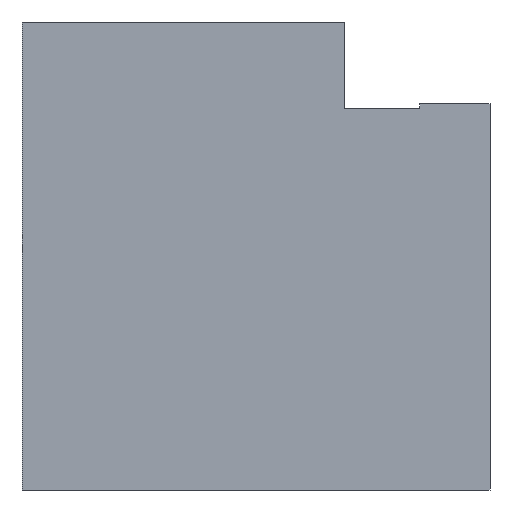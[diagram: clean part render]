
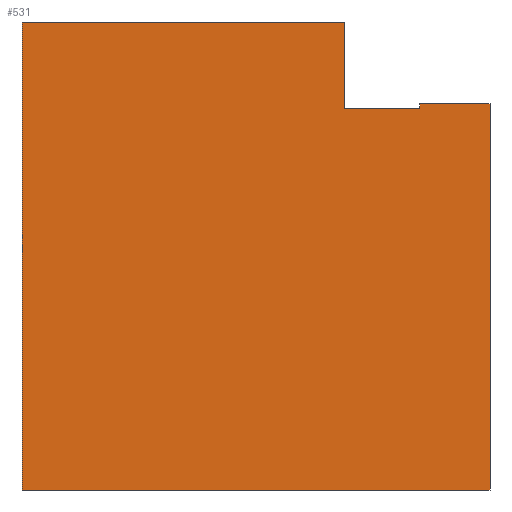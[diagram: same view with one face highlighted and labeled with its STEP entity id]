
A CAD part, left-side view. The second image highlights one B-rep face of the part: STEP entity #531.
In plain terms, the highlighted planar face has unit normal (-1, 0, 0).
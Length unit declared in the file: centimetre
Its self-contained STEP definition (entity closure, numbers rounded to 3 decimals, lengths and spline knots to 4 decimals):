
#12 = DIRECTION ( 'NONE',  ( 0., 0., -1. ) ) ;
#70 = VECTOR ( 'NONE', #1054, 100. ) ;
#71 = ORIENTED_EDGE ( 'NONE', *, *, #1024, .F. ) ;
#99 = VERTEX_POINT ( 'NONE', #304 ) ;
#108 = CARTESIAN_POINT ( 'NONE',  ( 0., 310.5653, 1000. ) ) ;
#134 = ORIENTED_EDGE ( 'NONE', *, *, #174, .T. ) ;
#155 = CARTESIAN_POINT ( 'NONE',  ( 0., 1000., 1000. ) ) ;
#156 = VERTEX_POINT ( 'NONE', #210 ) ;
#174 = EDGE_CURVE ( 'NONE', #99, #950, #307, .T. ) ;
#177 = CARTESIAN_POINT ( 'NONE',  ( 0., 149.7476, 815.6626 ) ) ;
#179 = CARTESIAN_POINT ( 'NONE',  ( 0., 1000., 1000. ) ) ;
#188 = VERTEX_POINT ( 'NONE', #661 ) ;
#203 = LINE ( 'NONE', #477, #600 ) ;
#210 = CARTESIAN_POINT ( 'NONE',  ( 0., 149.7476, 825.0649 ) ) ;
#223 = DIRECTION ( 'NONE',  ( 0., 0., 1. ) ) ;
#224 = VECTOR ( 'NONE', #377, 100. ) ;
#240 = ORIENTED_EDGE ( 'NONE', *, *, #740, .T. ) ;
#249 = LINE ( 'NONE', #344, #432 ) ;
#257 = ORIENTED_EDGE ( 'NONE', *, *, #337, .T. ) ;
#304 = CARTESIAN_POINT ( 'NONE',  ( 0., 310.5653, 815.6626 ) ) ;
#307 = LINE ( 'NONE', #819, #595 ) ;
#318 = ORIENTED_EDGE ( 'NONE', *, *, #1102, .F. ) ;
#337 = EDGE_CURVE ( 'NONE', #156, #954, #203, .T. ) ;
#344 = CARTESIAN_POINT ( 'NONE',  ( 0., 0., 1000. ) ) ;
#358 = VECTOR ( 'NONE', #607, 100. ) ;
#377 = DIRECTION ( 'NONE',  ( 0., 1., 0. ) ) ;
#387 = EDGE_CURVE ( 'NONE', #660, #406, #1132, .T. ) ;
#391 = VECTOR ( 'NONE', #512, 100. ) ;
#406 = VERTEX_POINT ( 'NONE', #687 ) ;
#432 = VECTOR ( 'NONE', #529, 100. ) ;
#440 = LINE ( 'NONE', #177, #70 ) ;
#447 = CARTESIAN_POINT ( 'NONE',  ( 0., 0., 825.0649 ) ) ;
#457 = CARTESIAN_POINT ( 'NONE',  ( 0., 1000., 0. ) ) ;
#477 = CARTESIAN_POINT ( 'NONE',  ( 0., 149.7476, 815.6626 ) ) ;
#512 = DIRECTION ( 'NONE',  ( 0., -1., 0. ) ) ;
#522 = EDGE_CURVE ( 'NONE', #954, #99, #440, .T. ) ;
#529 = DIRECTION ( 'NONE',  ( 0., 0., -1. ) ) ;
#531 = ADVANCED_FACE ( 'NONE', ( #1047 ), #709, .F. ) ;
#534 = DIRECTION ( 'NONE',  ( 1., 0., 0. ) ) ;
#580 = LINE ( 'NONE', #155, #391 ) ;
#595 = VECTOR ( 'NONE', #223, 100. ) ;
#600 = VECTOR ( 'NONE', #1101, 100. ) ;
#605 = CARTESIAN_POINT ( 'NONE',  ( 0., 1000., 0. ) ) ;
#607 = DIRECTION ( 'NONE',  ( 0., -1., 0. ) ) ;
#616 = LINE ( 'NONE', #179, #1008 ) ;
#652 = ORIENTED_EDGE ( 'NONE', *, *, #654, .T. ) ;
#654 = EDGE_CURVE ( 'NONE', #188, #156, #881, .T. ) ;
#660 = VERTEX_POINT ( 'NONE', #457 ) ;
#661 = CARTESIAN_POINT ( 'NONE',  ( 0., 0., 825.0649 ) ) ;
#686 = EDGE_LOOP ( 'NONE', ( #318, #652, #257, #1025, #134, #71, #240, #872 ) ) ;
#687 = CARTESIAN_POINT ( 'NONE',  ( 0., 0., 0. ) ) ;
#709 = PLANE ( 'NONE',  #964 ) ;
#738 = CARTESIAN_POINT ( 'NONE',  ( 0., 149.7476, 815.6626 ) ) ;
#740 = EDGE_CURVE ( 'NONE', #1066, #660, #616, .T. ) ;
#784 = CARTESIAN_POINT ( 'NONE',  ( 0., 1000., 1000. ) ) ;
#819 = CARTESIAN_POINT ( 'NONE',  ( 0., 310.5653, 815.6626 ) ) ;
#872 = ORIENTED_EDGE ( 'NONE', *, *, #387, .T. ) ;
#880 = DIRECTION ( 'NONE',  ( 0., 0., -1. ) ) ;
#881 = LINE ( 'NONE', #447, #224 ) ;
#928 = CARTESIAN_POINT ( 'NONE',  ( 0., 1000., 1000. ) ) ;
#950 = VERTEX_POINT ( 'NONE', #108 ) ;
#954 = VERTEX_POINT ( 'NONE', #738 ) ;
#964 = AXIS2_PLACEMENT_3D ( 'NONE', #784, #534, #880 ) ;
#1008 = VECTOR ( 'NONE', #12, 100. ) ;
#1024 = EDGE_CURVE ( 'NONE', #1066, #950, #580, .T. ) ;
#1025 = ORIENTED_EDGE ( 'NONE', *, *, #522, .T. ) ;
#1047 = FACE_OUTER_BOUND ( 'NONE', #686, .T. ) ;
#1054 = DIRECTION ( 'NONE',  ( 0., 1., 0. ) ) ;
#1066 = VERTEX_POINT ( 'NONE', #928 ) ;
#1101 = DIRECTION ( 'NONE',  ( 0., 0., -1. ) ) ;
#1102 = EDGE_CURVE ( 'NONE', #188, #406, #249, .T. ) ;
#1132 = LINE ( 'NONE', #605, #358 ) ;
